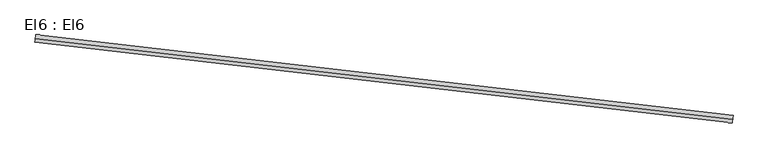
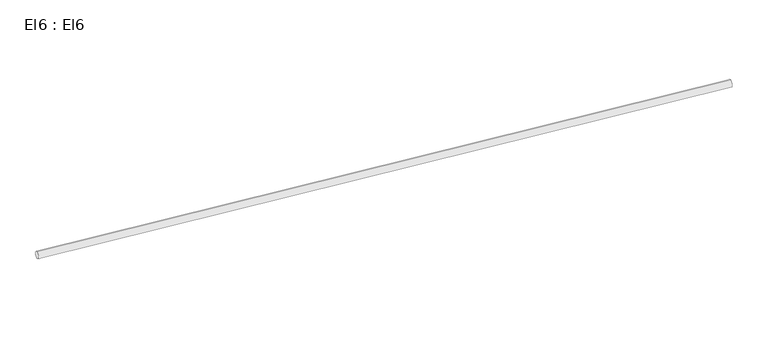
"""IFC4 building model written with IfcOpenShell, lengths in millimetres: cable carrier segment geometry, El6 : El6."""

from ifc_helpers import new_model, si_unit, point, frame, frame_2d, origin, place, context, project, spatial, circle_curve, trimmed, segment, composite_curve, outline, extrude, source, transform, mapped, element, save


def el6_el6_5958044e(model_context):
    return source(origin(), model_context, "Body", "SweptSolid", [
        extrude(outline(composite_curve([segment(trimmed(circle_curve(frame_2d((0.0, -9.5)), 9.5), [point((0.0, -19.0))], [point((0.0, 0.0))], False, "CARTESIAN"), True, "CONTINUOUS"), segment(trimmed(circle_curve(frame_2d((0.0, -9.5)), 9.5), [point((0.0, 0.0))], [point((0.0, -19.0))], False, "CARTESIAN"), True, "CONTINUOUS")], self_intersect=False)), frame((4225.6653372, 12032.4684162, 2959.5), z_axis=(-0.9933254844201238, 0.11534505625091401, 0.0), x_axis=(-0.11534505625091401, -0.9933254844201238, 0.0)), (0.0, 0.0, 1.0), 1791.69),
    ])


if __name__ == "__main__":
    model = new_model("IFC4")
    model_context = context("Model", 3, world=origin())
    ifc_project = project(units=[si_unit("LENGTHUNIT", "METRE", prefix="MILLI")], contexts=[model_context])
    site = spatial("IfcSite", under=ifc_project)
    building = spatial("IfcBuilding", under=site)
    placement = place(None, origin())
    el6_el6_shape = el6_el6_5958044e(model_context)
    element("IfcCableCarrierSegment", 1, ObjectType="El6 : El6", at=placement, inside=building, context=model_context, shape_type="MappedRepresentation", body=[
        mapped(el6_el6_shape, transform((0.0, 0.0, 0.0), x_axis=(1.0, 0.0, 0.0), y_axis=(0.0, 1.0, 0.0), z_axis=(0.0, 0.0, 1.0))),
    ])
    save(model, "model.ifc")
